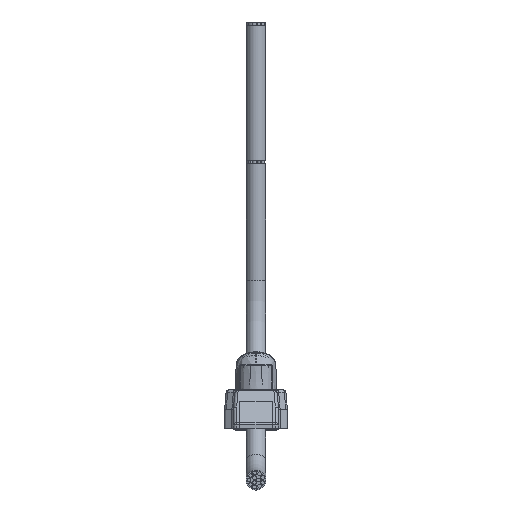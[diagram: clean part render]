
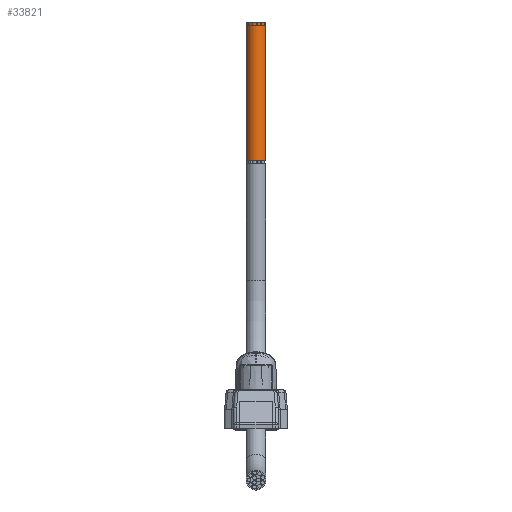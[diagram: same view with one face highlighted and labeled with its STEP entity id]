
A CAD part, front view. The second image highlights one B-rep face of the part: STEP entity #33821.
In plain terms, the highlighted cylindrical face has radius 3.1 mm (diameter 6.2 mm), a full revolution.
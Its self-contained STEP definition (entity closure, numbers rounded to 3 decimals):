
#1464=CYLINDRICAL_SURFACE('',#36731,3.1);
#2595=CIRCLE('',#36694,3.1);
#2620=CIRCLE('',#36732,3.1);
#5220=FACE_OUTER_BOUND('',#7325,.T.);
#7325=EDGE_LOOP('',(#24624,#24625,#24626,#24627));
#9661=LINE('',#70168,#12280);
#12280=VECTOR('',#41982,3.1);
#14946=VERTEX_POINT('',#70104);
#14971=VERTEX_POINT('',#70167);
#18505=EDGE_CURVE('',#14946,#14946,#2595,.T.);
#18530=EDGE_CURVE('',#14946,#14971,#9661,.T.);
#18531=EDGE_CURVE('',#14971,#14971,#2620,.F.);
#24624=ORIENTED_EDGE('',*,*,#18505,.T.);
#24625=ORIENTED_EDGE('',*,*,#18530,.T.);
#24626=ORIENTED_EDGE('',*,*,#18531,.T.);
#24627=ORIENTED_EDGE('',*,*,#18530,.F.);
#33821=ADVANCED_FACE('',(#5220),#1464,.T.);
#36694=AXIS2_PLACEMENT_3D('',#70105,#41906,#41907);
#36731=AXIS2_PLACEMENT_3D('',#70166,#41980,#41981);
#36732=AXIS2_PLACEMENT_3D('',#70169,#41983,#41984);
#41906=DIRECTION('center_axis',(0.,1.,0.));
#41907=DIRECTION('ref_axis',(0.,0.,
-1.));
#41980=DIRECTION('center_axis',(0.,-1.,0.));
#41981=DIRECTION('ref_axis',(0.,0.,
-1.));
#41982=DIRECTION('',(0.,1.,0.));
#41983=DIRECTION('center_axis',(0.,1.,0.));
#41984=DIRECTION('ref_axis',(0.,0.,
-1.));
#70104=CARTESIAN_POINT('',(0.,77.168,-346.9));
#70105=CARTESIAN_POINT('Origin',(0.,77.168,-350.));
#70166=CARTESIAN_POINT('Origin',(0.,-22.832,-350.));
#70167=CARTESIAN_POINT('',(0.,120.168,-346.9));
#70168=CARTESIAN_POINT('',(0.,-22.832,-346.9));
#70169=CARTESIAN_POINT('Origin',(0.,120.168,-350.));
